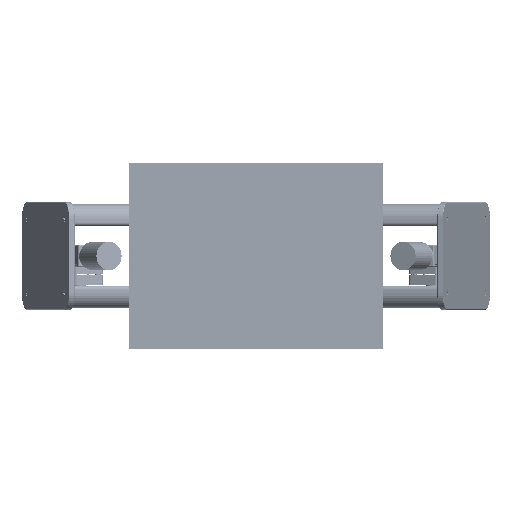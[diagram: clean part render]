
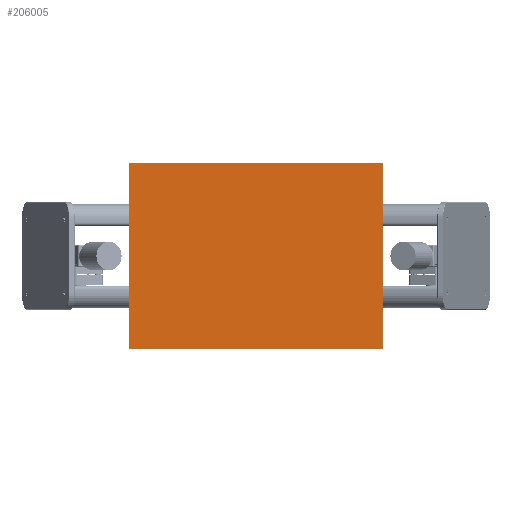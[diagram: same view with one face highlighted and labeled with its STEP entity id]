
A CAD part, left-side view. The second image highlights one B-rep face of the part: STEP entity #206005.
In plain terms, the highlighted planar face has unit normal (-1, 0, 0) as drawn and (0, 0, -1) by its records, which use the part's own axes.
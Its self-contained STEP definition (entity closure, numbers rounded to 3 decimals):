
#205878=DIRECTION('',(0.,1.,0.));
#205879=VECTOR('',#205878,250.);
#205880=CARTESIAN_POINT('',(-170.,-125.,-625.));
#205881=LINE('',#205880,#205879);
#205885=DIRECTION('',(-1.,0.,0.));
#205886=VECTOR('',#205885,340.);
#205887=CARTESIAN_POINT('',(170.,-125.,-625.));
#205888=LINE('',#205887,#205886);
#205892=DIRECTION('',(0.,1.,0.));
#205893=VECTOR('',#205892,250.);
#205894=CARTESIAN_POINT('',(170.,-125.,-625.));
#205895=LINE('',#205894,#205893);
#205899=DIRECTION('',(-1.,0.,0.));
#205900=VECTOR('',#205899,340.);
#205901=CARTESIAN_POINT('',(170.,125.,-625.));
#205902=LINE('',#205901,#205900);
#205914=CARTESIAN_POINT('',(170.,-125.,-625.));
#205915=CARTESIAN_POINT('',(-170.,-125.,-625.));
#205916=VERTEX_POINT('',#205914);
#205917=VERTEX_POINT('',#205915);
#205918=CARTESIAN_POINT('',(170.,125.,-625.));
#205919=CARTESIAN_POINT('',(-170.,125.,-625.));
#205920=VERTEX_POINT('',#205918);
#205921=VERTEX_POINT('',#205919);
#205994=CARTESIAN_POINT('',(170.,-130.,-625.));
#205995=DIRECTION('',(0.,0.,-1.));
#205996=DIRECTION('',(-1.,0.,0.));
#205997=AXIS2_PLACEMENT_3D('',#205994,#205995,#205996);
#205998=PLANE('',#205997);
#205999=ORIENTED_EDGE('',*,*,#205945,.F.);
#206000=ORIENTED_EDGE('',*,*,#205960,.T.);
#206001=ORIENTED_EDGE('',*,*,#205976,.T.);
#206002=ORIENTED_EDGE('',*,*,#205989,.F.);
#206003=EDGE_LOOP('',(#205999,#206000,#206001,#206002));
#206004=FACE_OUTER_BOUND('',#206003,.F.);
#205945=EDGE_CURVE('',#205916,#205917,#205888,.T.);
#205960=EDGE_CURVE('',#205916,#205920,#205895,.T.);
#205976=EDGE_CURVE('',#205920,#205921,#205902,.T.);
#205989=EDGE_CURVE('',#205917,#205921,#205881,.T.);
#206005=ADVANCED_FACE('',(#206004),#205998,.T.);
